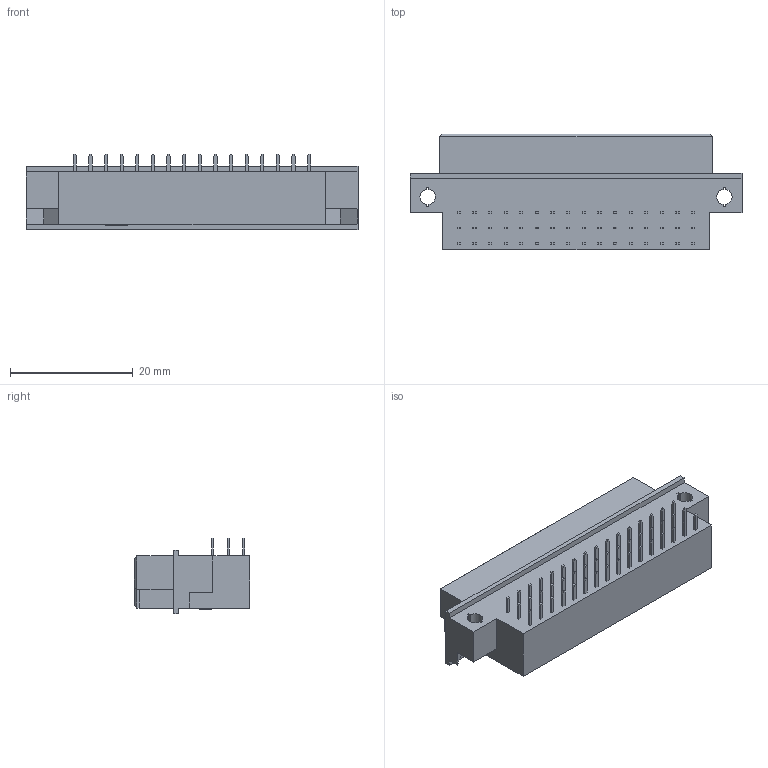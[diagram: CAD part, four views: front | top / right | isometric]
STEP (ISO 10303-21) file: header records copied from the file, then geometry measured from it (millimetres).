
FILE_DESCRIPTION (( 'STEP AP214' ), '1' );
FILE_NAME ('9001-A18481C00A.STEP', '2017-11-10T05:27:06', ( 'ADMIN' ), ( '' ), 'SwSTEP 2.0', 'SolidWorks 2011', '' );
FILE_SCHEMA (( 'AUTOMOTIVE_DESIGN' ));
Length unit declared in the file: millimetre
Products named in the file (5): 9011-2514; 9011-2414; 9011-2413; 9011-18_2; 9001-A18481C00A
Assembly tree (49 placements, depth 2):
  9001-A18481C00A
    9011-2514  x16
    9011-2413  x16
    9011-2414  x16
    9011-18_2
Bounding box: 54 x 18.8 x 12.36 mm (x, y, z)
Volume: 7438.8 mm3; surface area: 4268.9 mm2
Topology: 145 solids, 145 shells, 2255 faces, 5538 edges, 3624 vertices
Faces by surface type: plane 1849, cylinder 406
Entity records: 24989 total; most frequent: CARTESIAN_POINT 3099, ORIENTED_EDGE 2976, DIRECTION 2954, EDGE_CURVE 1488, LINE 1396, VECTOR 1396, VERTEX_POINT 924, AXIS2_PLACEMENT_3D 779
